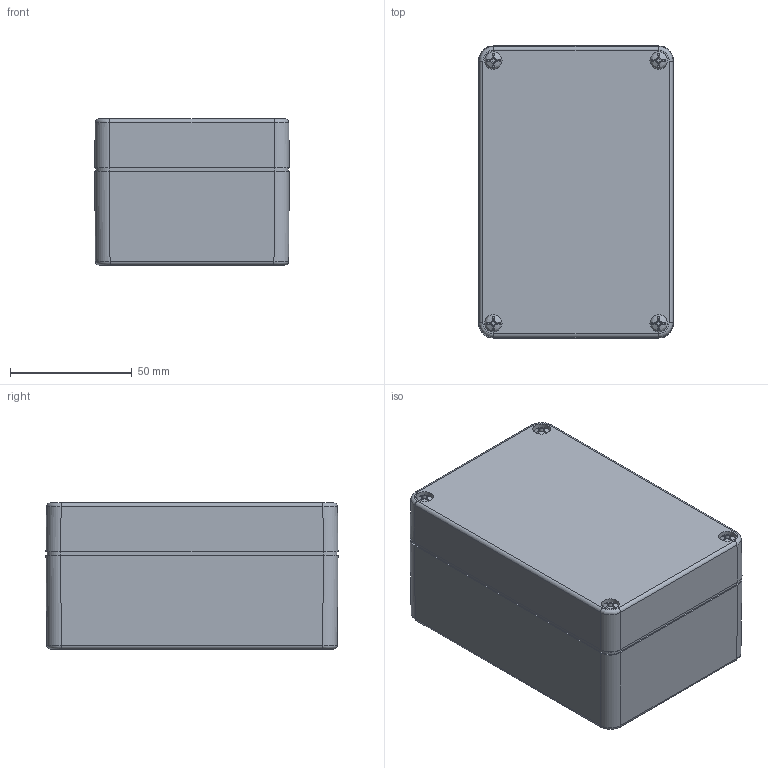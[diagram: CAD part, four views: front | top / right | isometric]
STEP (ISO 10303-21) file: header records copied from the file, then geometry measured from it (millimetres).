
FILE_DESCRIPTION((''),'2;1');
FILE_NAME('F:\User\Daten\Internet-3D-Daten\Euromas M&T\02216000_M 216.stp','2009-11-18T10:24:01',('kotzmaier'),(''),'Autodesk Inventor 2010','Autodesk Inventor 2010','');
FILE_SCHEMA(('AUTOMOTIVE_DESIGN { 1 0 10303 214 1 1 1 1 }'));
Length unit declared in the file: millimetre
Products named in the file (4): M-T 216; 215 216 UT_1009655_3D; 216_230_OT_1003526_3Dsym; SHR Z M4x28x10 ÄHNL_DIN EN ISO 7045 OG_3Dsym
Assembly tree (6 placements, depth 2):
  M-T 216
    215 216 UT_1009655_3D
    216_230_OT_1003526_3Dsym
    SHR Z M4x28x10 ÄHNL_DIN EN ISO 7045 OG_3Dsym  x4
Bounding box: 80 x 120 x 60 mm (x, y, z)
Volume: 143985.6 mm3; surface area: 95854.3 mm2
Topology: 6 solids, 6 shells, 594 faces, 1480 edges, 924 vertices
Faces by surface type: plane 254, cylinder 124, bspline 102, cone 86, torus 28
Full cylindrical faces by diameter (mm): 2.87 x4, 4 x4, 4.2 x4, 4.92 x4, 7 x4, 7.2 x4
Entity records: 20061 total; most frequent: CARTESIAN_POINT 8420, ORIENTED_EDGE 2396, DIRECTION 2376, EDGE_CURVE 1198, AXIS2_PLACEMENT_3D 924, VERTEX_POINT 785, EDGE_LOOP 625, VECTOR 528
